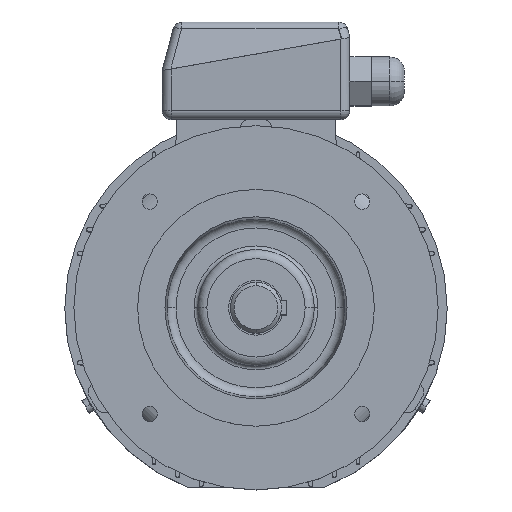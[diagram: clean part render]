
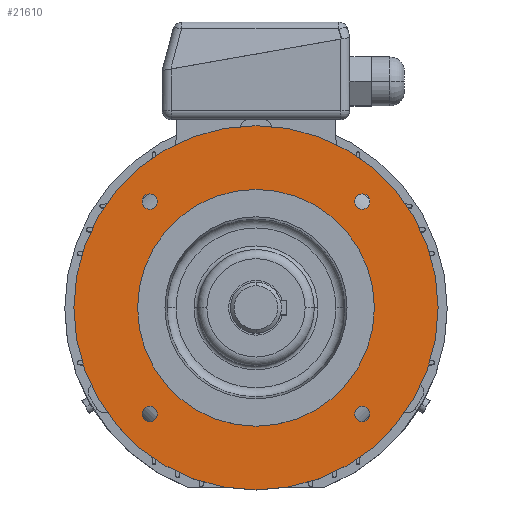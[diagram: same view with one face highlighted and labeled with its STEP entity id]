
A CAD part, top view. The second image highlights one B-rep face of the part: STEP entity #21610.
In plain terms, the highlighted planar face has unit normal (0, 0, 1).
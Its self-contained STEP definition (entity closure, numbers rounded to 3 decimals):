
#141 = CARTESIAN_POINT ( 'NONE',  ( -54.136, -58.336, 45. ) ) ;
#254 = ORIENTED_EDGE ( 'NONE', *, *, #26120, .F. ) ;
#875 = EDGE_CURVE ( 'NONE', #9705, #4205, #13599, .T. ) ;
#896 = EDGE_LOOP ( 'NONE', ( #254, #25459 ) ) ;
#1208 = ORIENTED_EDGE ( 'NONE', *, *, #8288, .F. ) ;
#17731 = CIRCLE ( 'NONE', #17732, 4.2 ) ;
#17732 = AXIS2_PLACEMENT_3D ( 'NONE', #17733, #17734, #17735 ) ;
#17733 = CARTESIAN_POINT ( 'NONE',  ( 58.336, -58.336, 45. ) ) ;
#17734 = DIRECTION ( 'NONE',  ( 0., 0., 1. ) ) ;
#17735 = DIRECTION ( 'NONE',  ( 1., 0., 0. ) ) ;
#1863 = EDGE_CURVE ( 'NONE', #10056, #18592, #15054, .T. ) ;
#2030 = CIRCLE ( 'NONE', #2031, 4.2 ) ;
#2031 = AXIS2_PLACEMENT_3D ( 'NONE', #2032, #2033, #2034 ) ;
#2032 = CARTESIAN_POINT ( 'NONE',  ( 58.336, -58.336, 45. ) ) ;
#2033 = DIRECTION ( 'NONE',  ( 0., 0., 1. ) ) ;
#2034 = DIRECTION ( 'NONE',  ( 1., 0., 0. ) ) ;
#18496 = CARTESIAN_POINT ( 'NONE',  ( 100., 0., 45. ) ) ;
#2188 = CARTESIAN_POINT ( 'NONE',  ( 62.536, -58.336, 45. ) ) ;
#18592 = VERTEX_POINT ( 'NONE', #6747 ) ;
#2308 = ORIENTED_EDGE ( 'NONE', *, *, #1863, .F. ) ;
#18816 = CARTESIAN_POINT ( 'NONE',  ( -100., 0., 45. ) ) ;
#19028 = EDGE_LOOP ( 'NONE', ( #3860, #3264 ) ) ;
#19326 = EDGE_CURVE ( 'NONE', #4205, #9705, #7481, .T. ) ;
#2962 = EDGE_LOOP ( 'NONE', ( #2308, #1208 ) ) ;
#19571 = CIRCLE ( 'NONE', #19572, 100. ) ;
#19572 = AXIS2_PLACEMENT_3D ( 'NONE', #19573, #19574, #19575 ) ;
#19573 = CARTESIAN_POINT ( 'NONE',  ( 0., 0., 45. ) ) ;
#19574 = DIRECTION ( 'NONE',  ( 0., 0., -1. ) ) ;
#19575 = DIRECTION ( 'NONE',  ( -1., 0., 0. ) ) ;
#3264 = ORIENTED_EDGE ( 'NONE', *, *, #23387, .F. ) ;
#19708 = CARTESIAN_POINT ( 'NONE',  ( 65., 0., 45. ) ) ;
#19744 = CARTESIAN_POINT ( 'NONE',  ( 54.136, 58.336, 45. ) ) ;
#19799 = ORIENTED_EDGE ( 'NONE', *, *, #19326, .T. ) ;
#3466 = VERTEX_POINT ( 'NONE', #18496 ) ;
#19987 = VERTEX_POINT ( 'NONE', #8591 ) ;
#3670 = CARTESIAN_POINT ( 'NONE',  ( 54.136, -58.336, 45. ) ) ;
#3749 = VERTEX_POINT ( 'NONE', #18816 ) ;
#3860 = ORIENTED_EDGE ( 'NONE', *, *, #4073, .F. ) ;
#4073 = EDGE_CURVE ( 'NONE', #3749, #3466, #19571, .T. ) ;
#4205 = VERTEX_POINT ( 'NONE', #19708 ) ;
#20630 = VERTEX_POINT ( 'NONE', #9292 ) ;
#4271 = VERTEX_POINT ( 'NONE', #19744 ) ;
#20654 = ORIENTED_EDGE ( 'NONE', *, *, #875, .T. ) ;
#21311 = EDGE_LOOP ( 'NONE', ( #20654, #19799 ) ) ;
#21610 = ADVANCED_FACE ( 'NONE', ( #10457, #10465, #10466, #10467, #10468, #10469 ), #10470, .T. ) ;
#22818 = EDGE_CURVE ( 'NONE', #23926, #19987, #11899, .T. ) ;
#6636 = ORIENTED_EDGE ( 'NONE', *, *, #22818, .F. ) ;
#6747 = CARTESIAN_POINT ( 'NONE',  ( -62.536, -58.336, 45. ) ) ;
#23328 = CIRCLE ( 'NONE', #23329, 4.2 ) ;
#23329 = AXIS2_PLACEMENT_3D ( 'NONE', #23330, #23331, #23332 ) ;
#23330 = CARTESIAN_POINT ( 'NONE',  ( -58.336, 58.336, 45. ) ) ;
#23331 = DIRECTION ( 'NONE',  ( 0., 0., 1. ) ) ;
#23332 = DIRECTION ( 'NONE',  ( 1., 0., 0. ) ) ;
#23387 = EDGE_CURVE ( 'NONE', #3466, #3749, #12363, .T. ) ;
#7481 = CIRCLE ( 'NONE', #7482, 65. ) ;
#7482 = AXIS2_PLACEMENT_3D ( 'NONE', #7483, #7484, #7485 ) ;
#7483 = CARTESIAN_POINT ( 'NONE',  ( 0., 0., 45. ) ) ;
#7484 = DIRECTION ( 'NONE',  ( 0., 0., -1. ) ) ;
#7485 = DIRECTION ( 'NONE',  ( -1., 0., 0. ) ) ;
#7506 = EDGE_CURVE ( 'NONE', #19987, #23926, #23328, .T. ) ;
#23926 = VERTEX_POINT ( 'NONE', #13180 ) ;
#7966 = ORIENTED_EDGE ( 'NONE', *, *, #7506, .F. ) ;
#24373 = CIRCLE ( 'NONE', #24374, 4.2 ) ;
#24374 = AXIS2_PLACEMENT_3D ( 'NONE', #24375, #24376, #24377 ) ;
#24375 = CARTESIAN_POINT ( 'NONE',  ( -58.336, -58.336, 45. ) ) ;
#24376 = DIRECTION ( 'NONE',  ( 0., 0., 1. ) ) ;
#24377 = DIRECTION ( 'NONE',  ( 1., 0., 0. ) ) ;
#8288 = EDGE_CURVE ( 'NONE', #18592, #10056, #24373, .T. ) ;
#8591 = CARTESIAN_POINT ( 'NONE',  ( -54.136, 58.336, 45. ) ) ;
#8610 = EDGE_LOOP ( 'NONE', ( #7966, #6636 ) ) ;
#25028 = EDGE_CURVE ( 'NONE', #4271, #20630, #15704, .T. ) ;
#25156 = EDGE_LOOP ( 'NONE', ( #9960, #8915 ) ) ;
#8915 = ORIENTED_EDGE ( 'NONE', *, *, #25028, .F. ) ;
#25459 = ORIENTED_EDGE ( 'NONE', *, *, #11747, .F. ) ;
#9292 = CARTESIAN_POINT ( 'NONE',  ( 62.536, 58.336, 45. ) ) ;
#9556 = EDGE_CURVE ( 'NONE', #20630, #4271, #26064, .T. ) ;
#26064 = CIRCLE ( 'NONE', #26065, 4.2 ) ;
#26065 = AXIS2_PLACEMENT_3D ( 'NONE', #26066, #26067, #26077 ) ;
#26066 = CARTESIAN_POINT ( 'NONE',  ( 58.336, 58.336, 45. ) ) ;
#26067 = DIRECTION ( 'NONE',  ( 0., 0., 1. ) ) ;
#26077 = DIRECTION ( 'NONE',  ( 1., 0., 0. ) ) ;
#9705 = VERTEX_POINT ( 'NONE', #26244 ) ;
#26120 = EDGE_CURVE ( 'NONE', #11894, #14125, #17731, .T. ) ;
#26244 = CARTESIAN_POINT ( 'NONE',  ( -65., 0., 45. ) ) ;
#9960 = ORIENTED_EDGE ( 'NONE', *, *, #9556, .F. ) ;
#10056 = VERTEX_POINT ( 'NONE', #141 ) ;
#10457 = FACE_BOUND ( 'NONE', #21311, .T. ) ;
#10465 = FACE_OUTER_BOUND ( 'NONE', #19028, .T. ) ;
#10466 = FACE_BOUND ( 'NONE', #2962, .T. ) ;
#10467 = FACE_BOUND ( 'NONE', #896, .T. ) ;
#10468 = FACE_BOUND ( 'NONE', #25156, .T. ) ;
#10469 = FACE_BOUND ( 'NONE', #8610, .T. ) ;
#10470 = PLANE ( 'NONE',  #10471 ) ;
#10471 = AXIS2_PLACEMENT_3D ( 'NONE', #10472, #10473, #10474 ) ;
#10472 = CARTESIAN_POINT ( 'NONE',  ( -100., 0., 45. ) ) ;
#10473 = DIRECTION ( 'NONE',  ( 0., 0., 1. ) ) ;
#10474 = DIRECTION ( 'NONE',  ( 1., 0., 0. ) ) ;
#11747 = EDGE_CURVE ( 'NONE', #14125, #11894, #2030, .T. ) ;
#11894 = VERTEX_POINT ( 'NONE', #2188 ) ;
#11899 = CIRCLE ( 'NONE', #11900, 4.2 ) ;
#11900 = AXIS2_PLACEMENT_3D ( 'NONE', #11901, #11902, #11903 ) ;
#11901 = CARTESIAN_POINT ( 'NONE',  ( -58.336, 58.336, 45. ) ) ;
#11902 = DIRECTION ( 'NONE',  ( 0., 0., 1. ) ) ;
#11903 = DIRECTION ( 'NONE',  ( 1., 0., 0. ) ) ;
#12363 = CIRCLE ( 'NONE', #12364, 100. ) ;
#12364 = AXIS2_PLACEMENT_3D ( 'NONE', #12365, #12391, #12392 ) ;
#12365 = CARTESIAN_POINT ( 'NONE',  ( 0., 0., 45. ) ) ;
#12391 = DIRECTION ( 'NONE',  ( 0., 0., -1. ) ) ;
#12392 = DIRECTION ( 'NONE',  ( -1., 0., 0. ) ) ;
#13180 = CARTESIAN_POINT ( 'NONE',  ( -62.536, 58.336, 45. ) ) ;
#13599 = CIRCLE ( 'NONE', #13623, 65. ) ;
#13623 = AXIS2_PLACEMENT_3D ( 'NONE', #13624, #13625, #13626 ) ;
#13624 = CARTESIAN_POINT ( 'NONE',  ( 0., 0., 45. ) ) ;
#13625 = DIRECTION ( 'NONE',  ( 0., 0., -1. ) ) ;
#13626 = DIRECTION ( 'NONE',  ( -1., 0., 0. ) ) ;
#14125 = VERTEX_POINT ( 'NONE', #3670 ) ;
#15054 = CIRCLE ( 'NONE', #15055, 4.2 ) ;
#15055 = AXIS2_PLACEMENT_3D ( 'NONE', #15056, #15057, #15058 ) ;
#15056 = CARTESIAN_POINT ( 'NONE',  ( -58.336, -58.336, 45. ) ) ;
#15057 = DIRECTION ( 'NONE',  ( 0., 0., 1. ) ) ;
#15058 = DIRECTION ( 'NONE',  ( 1., 0., 0. ) ) ;
#15704 = CIRCLE ( 'NONE', #15705, 4.2 ) ;
#15705 = AXIS2_PLACEMENT_3D ( 'NONE', #15706, #15707, #15708 ) ;
#15706 = CARTESIAN_POINT ( 'NONE',  ( 58.336, 58.336, 45. ) ) ;
#15707 = DIRECTION ( 'NONE',  ( 0., 0., 1. ) ) ;
#15708 = DIRECTION ( 'NONE',  ( 1., 0., 0. ) ) ;
